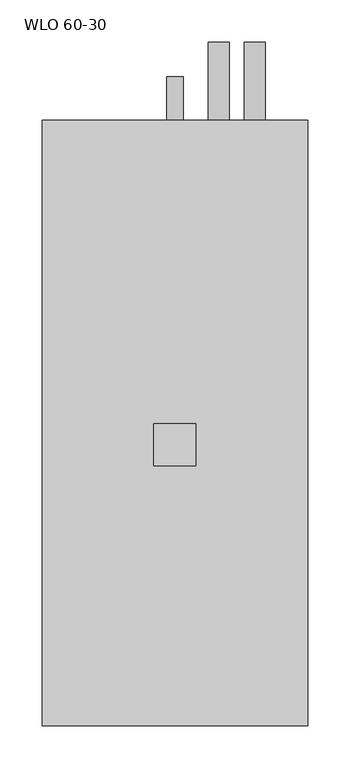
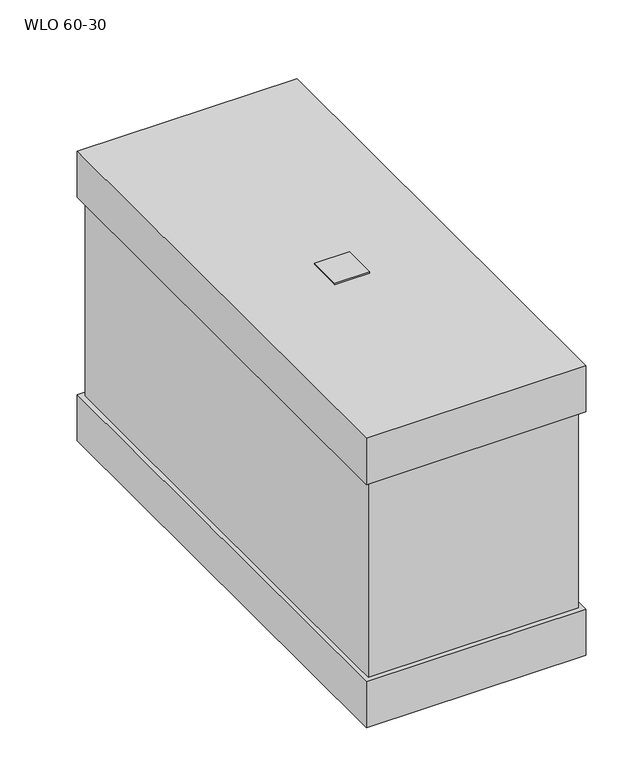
"""IFC4 building model written with IfcOpenShell, lengths in millimetres: proxy geometry, KORF_Воздухоохладитель_Водяной_WLO_Правый : WLO 60-30."""

import ifcopenshell
import ifcopenshell.guid

model = None  # the IFC model being written
_history = None  # IfcOwnerHistory: only IFC2X3 demands one
_inside = {}  # id of a spatial element -> (the spatial element, [elements in it])
_under = {}  # id of a project, library or spatial element -> (it, [spatial elements below it])
_declared = {}  # id of a project -> (the project, [libraries it declares])
_typed = {}  # id of a type object -> (the type object, [elements of that type])
_made_of = {}  # id of a material, layer set ... -> (it, [elements and type objects made of it])


def new_model(schema):
    """Start an empty IFC model of exactly this schema.

    Asked for "IFC4X3", IfcOpenShell would pick the latest addendum, in which some entities
    have other attributes; the version numbers below select the first issue.
    IFC2X3 requires an IfcOwnerHistory on every rooted entity: one is made here for all.
    """
    global model, _history
    if schema == "IFC4X3":
        model = ifcopenshell.file(schema_version=(4, 3, 0, 0))
    else:
        model = ifcopenshell.file(schema=schema)
    _inside.clear()
    _under.clear()
    _declared.clear()
    _typed.clear()
    _made_of.clear()
    _history = None
    if model.schema == "IFC2X3":
        org = make("IfcOrganization", Name="unknown")
        user = make(
            "IfcPersonAndOrganization",
            ThePerson=make("IfcPerson", FamilyName="unknown"),
            TheOrganization=org,
        )
        app = make(
            "IfcApplication",
            ApplicationDeveloper=org,
            Version="unknown",
            ApplicationFullName="unknown",
            ApplicationIdentifier="unknown",
        )
        _history = make(
            "IfcOwnerHistory",
            OwningUser=user,
            OwningApplication=app,
            ChangeAction="ADDED",
            CreationDate=0,
        )
    return model


def make(cls, **values):
    """One entity of the class cls with the attributes given. An attribute that is None is left unset."""
    return model.create_entity(
        cls, **{name: value for name, value in values.items() if value is not None}
    )


def rooted(cls, **values):
    """An entity with a GlobalId (a new one), such as an element, a storey or a relation."""
    return make(cls, GlobalId=ifcopenshell.guid.new(), OwnerHistory=_history, **values)


def si_unit(unit_type, name, prefix=None):
    """IfcSIUnit, for example si_unit("LENGTHUNIT", "METRE", prefix="MILLI")."""
    return make("IfcSIUnit", UnitType=unit_type, Prefix=prefix, Name=name)


def assignment(units):
    """IfcUnitAssignment: the units of a project."""
    return None if units is None else make("IfcUnitAssignment", Units=units)


def point(xyz):
    """IfcCartesianPoint."""
    return None if xyz is None else make("IfcCartesianPoint", Coordinates=xyz)


def direction(xyz):
    """IfcDirection."""
    return None if xyz is None else make("IfcDirection", DirectionRatios=xyz)


def frame(location, z_axis=None, x_axis=None):
    """IfcAxis2Placement3D, a coordinate frame: its origin and axes. An axis left out is left unset."""
    return make(
        "IfcAxis2Placement3D",
        Location=point(location),
        Axis=direction(z_axis),
        RefDirection=direction(x_axis),
    )


def frame_2d(location, x_axis=None):
    """IfcAxis2Placement2D, a coordinate frame in the plane: its origin and x axis."""
    return make(
        "IfcAxis2Placement2D", Location=point(location), RefDirection=direction(x_axis)
    )


def origin():
    """The frame at (0, 0, 0) with its axes left unset."""
    return frame((0.0, 0.0, 0.0))


def place(relative_to, where):
    """IfcLocalPlacement: puts the frame where relative to a parent placement (None: the world)."""
    return make(
        "IfcLocalPlacement", PlacementRelTo=relative_to, RelativePlacement=where
    )


def context(
    kind, dimensions, precision=None, world=None, true_north=None, identifier=None
):
    """IfcGeometricRepresentationContext, for example the 3D "Model" context."""
    return make(
        "IfcGeometricRepresentationContext",
        ContextIdentifier=identifier,
        ContextType=kind,
        CoordinateSpaceDimension=dimensions,
        Precision=precision,
        WorldCoordinateSystem=world,
        TrueNorth=true_north,
    )


def project(units=None, contexts=None):
    """IfcProject with its units and contexts."""
    return rooted(
        "IfcProject",
        Name="project",
        RepresentationContexts=contexts,
        UnitsInContext=assignment(units),
    )


def spatial(cls, under=None, at=None, **own):
    """A site, building, storey or space (cls), placed at a placement, below another one or the project."""
    s = rooted(cls, ObjectPlacement=at, **own)
    if under is not None:
        _under.setdefault(under.id(), (under, []))[1].append(s)
    return s


def polyline(points):
    """IfcPolyline through the points."""
    return make("IfcPolyline", Points=[point(p) for p in points])


def circle_curve(where, radius):
    """IfcCircle in the frame where."""
    return make("IfcCircle", Position=where, Radius=radius)


def trimmed(basis, trim1, trim2, sense, master):
    """IfcTrimmedCurve: the piece of a basis curve between two trims."""
    return make(
        "IfcTrimmedCurve",
        BasisCurve=basis,
        Trim1=trim1,
        Trim2=trim2,
        SenseAgreement=sense,
        MasterRepresentation=master,
    )


def segment(curve, same_sense, transition):
    """IfcCompositeCurveSegment."""
    return make(
        "IfcCompositeCurveSegment",
        Transition=transition,
        SameSense=same_sense,
        ParentCurve=curve,
    )


def composite_curve(segments, self_intersect=None):
    """IfcCompositeCurve: segments joined end to end."""
    return make("IfcCompositeCurve", Segments=segments, SelfIntersect=self_intersect)


def outline(outer, holes=None, kind="AREA"):
    """IfcArbitraryClosedProfileDef: a profile drawn as a closed curve; with holes, ...WithVoids."""
    if holes is None:
        return make("IfcArbitraryClosedProfileDef", ProfileType=kind, OuterCurve=outer)
    return make(
        "IfcArbitraryProfileDefWithVoids",
        ProfileType=kind,
        OuterCurve=outer,
        InnerCurves=holes,
    )


def extrude(swept, where, along, depth):
    """IfcExtrudedAreaSolid: the profile swept, set in the frame where, extruded along a direction by depth."""
    return make(
        "IfcExtrudedAreaSolid",
        SweptArea=swept,
        Position=where,
        ExtrudedDirection=direction(along),
        Depth=depth,
    )


def faces_of(points, faces, orient=None, outer=None):
    """IfcFace entities. A face is a list of loops; a loop is a list of indices into points, from 0.

    orient and outer hold one flag for each loop. By default every Orientation is true, the
    first loop of a face is its IfcFaceOuterBound and the others are IfcFaceBound.
    """
    made = []
    for i, loops in enumerate(faces):
        bounds = []
        for j, loop in enumerate(loops):
            is_outer = j == 0 if outer is None else outer[i][j]
            bounds.append(
                make(
                    "IfcFaceOuterBound" if is_outer else "IfcFaceBound",
                    Bound=make("IfcPolyLoop", Polygon=[points[k] for k in loop]),
                    Orientation=True if orient is None else orient[i][j],
                )
            )
        made.append(make("IfcFace", Bounds=bounds))
    return made


def faceted_brep(points, faces, orient=None, outer=None, voids=None):
    """IfcFacetedBrep: a solid bounded by flat faces; with voids (closed shells), ...WithVoids."""
    shared = [point(p) for p in points]
    hull = make("IfcClosedShell", CfsFaces=faces_of(shared, faces, orient, outer))
    if voids is None:
        return make("IfcFacetedBrep", Outer=hull)
    return make(
        "IfcFacetedBrepWithVoids",
        Outer=hull,
        Voids=[
            make(cls, CfsFaces=faces_of(shared, fs, o, b)) for cls, fs, o, b in voids
        ],
    )


def shape(context_of_items, identifier, shape_type, items):
    """IfcShapeRepresentation: the items that make up one representation, for example the "Body"."""
    return make(
        "IfcShapeRepresentation",
        ContextOfItems=context_of_items,
        RepresentationIdentifier=identifier,
        RepresentationType=shape_type,
        Items=items,
    )


def source(mapping_origin, context_of_items, identifier, shape_type, items):
    """IfcRepresentationMap: a shape defined once, which mapped items show again and again."""
    return make(
        "IfcRepresentationMap",
        MappingOrigin=mapping_origin,
        MappedRepresentation=shape(context_of_items, identifier, shape_type, items),
    )


def transform(
    local_origin,
    x_axis=None,
    y_axis=None,
    z_axis=None,
    scale=None,
    scale2=None,
    scale3=None,
    uniform=True,
):
    """IfcCartesianTransformationOperator3D, or its non-uniform kind. x_axis, y_axis, z_axis: its Axis1, 2, 3."""
    if uniform:
        return make(
            "IfcCartesianTransformationOperator3D",
            Axis1=direction(x_axis),
            Axis2=direction(y_axis),
            LocalOrigin=point(local_origin),
            Scale=scale,
            Axis3=direction(z_axis),
        )
    return make(
        "IfcCartesianTransformationOperator3DnonUniform",
        Axis1=direction(x_axis),
        Axis2=direction(y_axis),
        LocalOrigin=point(local_origin),
        Scale=scale,
        Axis3=direction(z_axis),
        Scale2=scale2,
        Scale3=scale3,
    )


def mapped(mapping_source, mapping_target):
    """IfcMappedItem: shows the shape of a source again, moved by a transform."""
    return make(
        "IfcMappedItem", MappingSource=mapping_source, MappingTarget=mapping_target
    )


def made_of(thing, what):
    """Note that an element or type object is made of a material, layer set ...; save() writes the relation."""
    if what is not None:
        _made_of.setdefault(what.id(), (what, []))[1].append(thing)
    return thing


def element(
    cls,
    number,
    at=None,
    inside=None,
    cuts=None,
    type_object=None,
    material=None,
    context=None,
    identifier="Body",
    shape_type=None,
    held_by="IfcProductDefinitionShape",
    body=None,
    shapes=None,
    **own,
):
    """One element of the class cls, such as IfcWall. Its Tag is "e" and its number.

    at: its placement. inside: the storey or other place that contains it. cuts: it is an
    opening in that element (IfcRelVoidsElement). A single representation is given by context,
    identifier, shape_type and body (its items); several are given by shapes. held_by: the class
    of the entity that holds the representations. save() writes the other relations.
    """
    e = rooted(cls, Tag="e%d" % number, ObjectPlacement=at, **own)
    if body is not None:
        shapes = [shape(context, identifier, shape_type, body)]
    if shapes is not None:
        e.Representation = make(held_by, Representations=shapes)
    if inside is not None:
        _inside.setdefault(inside.id(), (inside, []))[1].append(e)
    if cuts is not None:
        rooted(
            "IfcRelVoidsElement", RelatingBuildingElement=cuts, RelatedOpeningElement=e
        )
    if type_object is not None:
        _typed.setdefault(type_object.id(), (type_object, []))[1].append(e)
    return made_of(e, material)


def aggregate(whole, parts):
    """IfcRelAggregates: a whole, such as a stair, and the parts it consists of."""
    return rooted("IfcRelAggregates", RelatingObject=whole, RelatedObjects=parts)


def save(model, path):
    """Write the relations noted so far, then the file.

    IfcRelAggregates (storeys below a building ...), IfcRelContainedInSpatialStructure (elements
    in a storey), IfcRelDefinesByType, IfcRelAssociatesMaterial and IfcRelDeclares: one each for
    every whole, place, type object, material and project.
    """
    for whole, parts in _under.values():
        aggregate(whole, parts)
    for where, things in _inside.values():
        rooted(
            "IfcRelContainedInSpatialStructure",
            RelatedElements=things,
            RelatingStructure=where,
        )
    for kind, things in _typed.values():
        rooted("IfcRelDefinesByType", RelatedObjects=things, RelatingType=kind)
    for what, things in _made_of.values():
        rooted("IfcRelAssociatesMaterial", RelatedObjects=things, RelatingMaterial=what)
    for by, libraries in _declared.values():
        rooted("IfcRelDeclares", RelatingContext=by, RelatedDefinitions=libraries)
    model.write(path)


def wlo_60_30_cd8e7dff(model_context):
    return source(origin(), model_context, "Body", "SolidModel", [
        extrude(outline(polyline([(133.0, -25.0), (133.0, 25.0), (183.0, 25.0), (183.0, -25.0), (133.0, -25.0)])), frame((0.0, 0.0, 220.0), z_axis=(0.0, 0.0, 1.0), x_axis=(1.0, 0.0, 0.0)), (0.0, 0.0, 1.0), 2.0),
        faceted_brep([(316.0, -334.0, 220.0), (316.0, -334.0, 150.0), (316.0, 386.0, 150.0), (316.0, 386.0, 220.0), (316.0, -334.0, -150.0), (316.0, -334.0, -220.0), (316.0, 386.0, -220.0), (316.0, 386.0, -150.0), (0.0, -334.0, 220.0), (0.0, 386.0, 220.0), (0.0, 386.0, 150.0), (0.0, -334.0, 150.0), (0.0, -334.0, -150.0), (0.0, 386.0, -150.0), (0.0, 386.0, -220.0), (0.0, -334.0, -220.0), (7.0, -327.0, 150.0), (309.0, -327.0, 150.0), (309.0, -300.0, 150.0), (309.0, 300.0, 150.0), (309.0, 379.0, 150.0), (7.0, 379.0, 150.0), (7.0, 300.0, 150.0), (7.0, -300.0, 150.0), (309.0, -327.0, -150.0), (7.0, -327.0, -150.0), (7.0, -300.0, -150.0), (7.0, 300.0, -150.0), (7.0, 379.0, -150.0), (309.0, 379.0, -150.0), (309.0, 300.0, -150.0), (309.0, -300.0, -150.0)], [[[0, 1, 2, 3]], [[4, 5, 6, 7]], [[8, 9, 10, 11]], [[12, 13, 14, 15]], [[1, 0, 8, 11]], [[2, 1, 11, 10], [16, 17, 18, 19, 20, 21, 22, 23]], [[3, 2, 10, 9]], [[0, 3, 9, 8]], [[5, 4, 12, 15]], [[6, 5, 15, 14]], [[7, 6, 14, 13]], [[4, 7, 13, 12], [24, 25, 26, 27, 28, 29, 30, 31]], [[17, 24, 31, 30, 29, 20, 19, 18]], [[21, 28, 27, 26, 25, 16, 23, 22]], [[24, 17, 16, 25]], [[20, 29, 28, 21]]]),
        extrude(outline(composite_curve([segment(trimmed(circle_curve(frame_2d((50.0, 253.0)), 12.5), [point((50.0, 240.5))], [point((50.0, 265.5))], False, "CARTESIAN"), True, "CONTINUOUS"), segment(trimmed(circle_curve(frame_2d((50.0, 253.0)), 12.5), [point((50.0, 265.5))], [point((50.0, 240.5))], False, "CARTESIAN"), True, "CONTINUOUS")], self_intersect=False)), frame((0.0, 379.0, 0.0), z_axis=(0.0, 1.0, 0.0), x_axis=(0.0, 0.0, 1.0)), (0.0, 0.0, 1.0), 100.0),
        extrude(outline(composite_curve([segment(trimmed(circle_curve(frame_2d((-50.0, 210.0)), 12.5), [point((-50.0, 197.5))], [point((-50.0, 222.5))], False, "CARTESIAN"), True, "CONTINUOUS"), segment(trimmed(circle_curve(frame_2d((-50.0, 210.0)), 12.5), [point((-50.0, 222.5))], [point((-50.0, 197.5))], False, "CARTESIAN"), True, "CONTINUOUS")], self_intersect=False)), frame((0.0, 379.0, 0.0), z_axis=(0.0, 1.0, 0.0), x_axis=(0.0, 0.0, 1.0)), (0.0, 0.0, 1.0), 100.0),
        extrude(outline(composite_curve([segment(trimmed(circle_curve(frame_2d((-202.0, 158.0)), 10.0), [point((-202.0, 148.0))], [point((-202.0, 168.0))], False, "CARTESIAN"), True, "CONTINUOUS"), segment(trimmed(circle_curve(frame_2d((-202.0, 158.0)), 10.0), [point((-202.0, 168.0))], [point((-202.0, 148.0))], False, "CARTESIAN"), True, "CONTINUOUS")], self_intersect=False)), frame((0.0, 386.0, 0.0), z_axis=(0.0, 1.0, 0.0), x_axis=(0.0, 0.0, 1.0)), (0.0, 0.0, 1.0), 52.0),
    ])


if __name__ == "__main__":
    model = new_model("IFC4")
    model_context = context("Model", 3, world=origin())
    ifc_project = project(units=[si_unit("LENGTHUNIT", "METRE", prefix="MILLI")], contexts=[model_context])
    site = spatial("IfcSite", under=ifc_project)
    building = spatial("IfcBuilding", under=site)
    placement = place(None, origin())
    wlo_60_30_shape = wlo_60_30_cd8e7dff(model_context)
    element("IfcBuildingElementProxy", 1, Name="KORF_Воздухоохладитель_Водяной_WLO_Правый : WLO 60-30", ObjectType="KORF_Воздухоохладитель_Водяной_WLO_Правый : WLO 60-30", at=placement, inside=building, context=model_context, shape_type="MappedRepresentation", body=[
        mapped(wlo_60_30_shape, transform((0.0, 0.0, 0.0), x_axis=(1.0, 0.0, 0.0), y_axis=(0.0, 1.0, 0.0), z_axis=(0.0, 0.0, 1.0))),
    ])
    save(model, "model.ifc")
